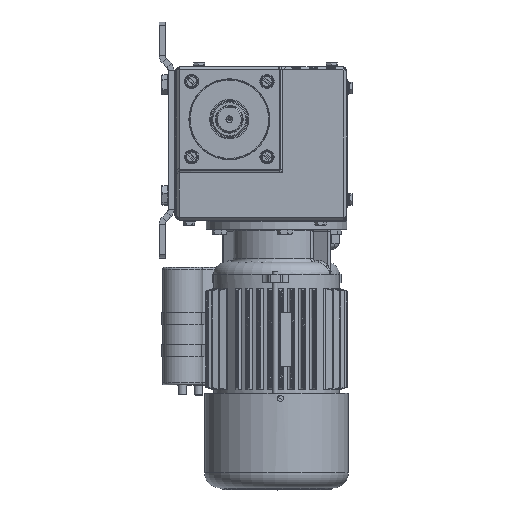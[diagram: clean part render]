
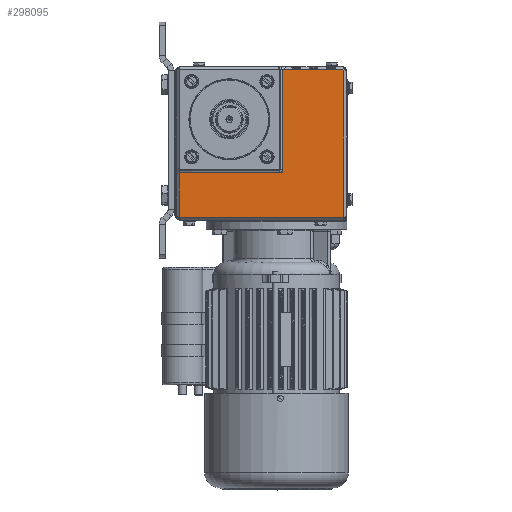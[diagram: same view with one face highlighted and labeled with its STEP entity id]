
A CAD part, top view. The second image highlights one B-rep face of the part: STEP entity #298095.
In plain terms, the highlighted planar face has unit normal (0, 0, 1).
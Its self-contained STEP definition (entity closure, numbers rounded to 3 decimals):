
#983 = ORIENTED_EDGE ( 'NONE', *, *, #204967, .T. ) ;
#4479 = CARTESIAN_POINT ( 'NONE',  ( -47.879, -97.8, 96. ) ) ;
#11360 = ORIENTED_EDGE ( 'NONE', *, *, #309649, .T. ) ;
#11689 = CARTESIAN_POINT ( 'NONE',  ( 111.879, 49.5, 96. ) ) ;
#20053 = EDGE_CURVE ( 'NONE', #171094, #276862, #204623, .T. ) ;
#20606 = ORIENTED_EDGE ( 'NONE', *, *, #284953, .T. ) ;
#24859 = AXIS2_PLACEMENT_3D ( 'NONE', #223401, #63393, #250550 ) ;
#33583 = VECTOR ( 'NONE', #43427, 1000. ) ;
#43427 = DIRECTION ( 'NONE',  ( -1., 0., 0. ) ) ;
#47598 = CARTESIAN_POINT ( 'NONE',  ( 111.879, -97.8, 96. ) ) ;
#48464 = VERTEX_POINT ( 'NONE', #219380 ) ;
#54106 =( BOUNDED_CURVE ( )  B_SPLINE_CURVE ( 3, ( #230213, #257314, #123736, #311257 ),
 .UNSPECIFIED., .F., .F. ) 
 B_SPLINE_CURVE_WITH_KNOTS ( ( 4, 4 ),
 ( 2.618, 3.665 ),
 .UNSPECIFIED. ) 
 CURVE ( )  GEOMETRIC_REPRESENTATION_ITEM ( )  RATIONAL_B_SPLINE_CURVE ( ( 1., 0.911, 0.911, 1. ) ) 
 REPRESENTATION_ITEM ( '' )  );
#55528 = VECTOR ( 'NONE', #125375, 1000. ) ;
#62212 = PLANE ( 'NONE',  #24859 ) ;
#63393 = DIRECTION ( 'NONE',  ( 0., 0., -1. ) ) ;
#64748 = CARTESIAN_POINT ( 'NONE',  ( 114., -95.679, 96. ) ) ;
#69915 =( BOUNDED_CURVE ( )  B_SPLINE_CURVE ( 3, ( #246585, #86236, #327482, #166759 ),
 .UNSPECIFIED., .F., .T. ) 
 B_SPLINE_CURVE_WITH_KNOTS ( ( 4, 4 ),
 ( 2.618, 3.665 ),
 .UNSPECIFIED. ) 
 CURVE ( )  GEOMETRIC_REPRESENTATION_ITEM ( )  RATIONAL_B_SPLINE_CURVE ( ( 1., 0.911, 0.911, 1. ) ) 
 REPRESENTATION_ITEM ( '' )  );
#71490 = VERTEX_POINT ( 'NONE', #276165 ) ;
#72198 = CARTESIAN_POINT ( 'NONE',  ( 117., -97.8, 96. ) ) ;
#76548 = EDGE_LOOP ( 'NONE', ( #118266, #20606, #271616, #271551, #983, #165949, #129431, #214214, #145101, #11360 ) ) ;
#78735 = VECTOR ( 'NONE', #258224, 1000. ) ;
#86236 = CARTESIAN_POINT ( 'NONE',  ( -50., -97.024, 96. ) ) ;
#95435 = EDGE_CURVE ( 'NONE', #276862, #104369, #108733, .T. ) ;
#97487 = CARTESIAN_POINT ( 'NONE',  ( 53.243, -52., 96. ) ) ;
#98029 = CARTESIAN_POINT ( 'NONE',  ( 114., 47.379, 96. ) ) ;
#104369 = VERTEX_POINT ( 'NONE', #119273 ) ;
#108047 = LINE ( 'NONE', #97487, #170718 ) ;
#108089 = LINE ( 'NONE', #203387, #33583 ) ;
#108306 = VERTEX_POINT ( 'NONE', #326913 ) ;
#108733 =( BOUNDED_CURVE ( )  B_SPLINE_CURVE ( 3, ( #144588, #332226, #117811, #11689 ),
 .UNSPECIFIED., .F., .F. ) 
 B_SPLINE_CURVE_WITH_KNOTS ( ( 4, 4 ),
 ( 2.618, 3.665 ),
 .UNSPECIFIED. ) 
 CURVE ( )  GEOMETRIC_REPRESENTATION_ITEM ( )  RATIONAL_B_SPLINE_CURVE ( ( 1., 0.911, 0.911, 1. ) ) 
 REPRESENTATION_ITEM ( '' )  );
#117474 = EDGE_CURVE ( 'NONE', #265930, #270865, #220954, .T. ) ;
#117811 = CARTESIAN_POINT ( 'NONE',  ( 113.224, 49.5, 96. ) ) ;
#118266 = ORIENTED_EDGE ( 'NONE', *, *, #117474, .T. ) ;
#119273 = CARTESIAN_POINT ( 'NONE',  ( 111.879, 49.5, 96. ) ) ;
#123736 = CARTESIAN_POINT ( 'NONE',  ( 114., -97.024, 96. ) ) ;
#125375 = DIRECTION ( 'NONE',  ( -1., 0., 0. ) ) ;
#126466 = LINE ( 'NONE', #286027, #55528 ) ;
#129431 = ORIENTED_EDGE ( 'NONE', *, *, #340192, .T. ) ;
#133452 = VECTOR ( 'NONE', #317439, 1000. ) ;
#144588 = CARTESIAN_POINT ( 'NONE',  ( 114., 47.379, 96. ) ) ;
#145101 = ORIENTED_EDGE ( 'NONE', *, *, #189050, .T. ) ;
#153200 = VERTEX_POINT ( 'NONE', #214178 ) ;
#157643 = CARTESIAN_POINT ( 'NONE',  ( 54.121, 49.5, 96. ) ) ;
#157961 = VERTEX_POINT ( 'NONE', #157643 ) ;
#158117 = VECTOR ( 'NONE', #240712, 1000. ) ;
#165949 = ORIENTED_EDGE ( 'NONE', *, *, #225541, .T. ) ;
#166759 = CARTESIAN_POINT ( 'NONE',  ( -47.879, -97.8, 96. ) ) ;
#170718 = VECTOR ( 'NONE', #284891, 1000. ) ;
#171094 = VERTEX_POINT ( 'NONE', #64748 ) ;
#181818 = CARTESIAN_POINT ( 'NONE',  ( 53.243, 49.645, 96. ) ) ;
#189050 = EDGE_CURVE ( 'NONE', #48464, #71490, #237928, .T. ) ;
#203387 = CARTESIAN_POINT ( 'NONE',  ( 52., 49.5, 96. ) ) ;
#204623 = LINE ( 'NONE', #236467, #133452 ) ;
#204967 = EDGE_CURVE ( 'NONE', #104369, #157961, #108089, .T. ) ;
#214178 = CARTESIAN_POINT ( 'NONE',  ( 53.243, -53.243, 96. ) ) ;
#214214 = ORIENTED_EDGE ( 'NONE', *, *, #346325, .T. ) ;
#219380 = CARTESIAN_POINT ( 'NONE',  ( -50., -53.243, 96. ) ) ;
#220954 = LINE ( 'NONE', #72198, #78735 ) ;
#223401 = CARTESIAN_POINT ( 'NONE',  ( -53., 52.5, 96. ) ) ;
#225541 = EDGE_CURVE ( 'NONE', #157961, #108306, #294832, .T. ) ;
#230213 = CARTESIAN_POINT ( 'NONE',  ( 111.879, -97.8, 96. ) ) ;
#234659 = CARTESIAN_POINT ( 'NONE',  ( 54.121, 49.5, 96. ) ) ;
#236467 = CARTESIAN_POINT ( 'NONE',  ( 114., 52.5, 96. ) ) ;
#237928 = LINE ( 'NONE', #239539, #158117 ) ;
#239539 = CARTESIAN_POINT ( 'NONE',  ( -50., 52.5, 96. ) ) ;
#240712 = DIRECTION ( 'NONE',  ( 0., -1., 0. ) ) ;
#246585 = CARTESIAN_POINT ( 'NONE',  ( -50., -95.679, 96. ) ) ;
#250550 = DIRECTION ( 'NONE',  ( -1., 0., 0. ) ) ;
#257314 = CARTESIAN_POINT ( 'NONE',  ( 113.224, -97.8, 96. ) ) ;
#258224 = DIRECTION ( 'NONE',  ( 1., 0., 0. ) ) ;
#261811 = CARTESIAN_POINT ( 'NONE',  ( 53.8, 49.5, 96. ) ) ;
#265930 = VERTEX_POINT ( 'NONE', #4479 ) ;
#270865 = VERTEX_POINT ( 'NONE', #47598 ) ;
#271551 = ORIENTED_EDGE ( 'NONE', *, *, #95435, .T. ) ;
#271616 = ORIENTED_EDGE ( 'NONE', *, *, #20053, .T. ) ;
#276165 = CARTESIAN_POINT ( 'NONE',  ( -50., -95.679, 96. ) ) ;
#276862 = VERTEX_POINT ( 'NONE', #98029 ) ;
#284891 = DIRECTION ( 'NONE',  ( 0., -1., 0. ) ) ;
#284953 = EDGE_CURVE ( 'NONE', #270865, #171094, #54106, .T. ) ;
#286027 = CARTESIAN_POINT ( 'NONE',  ( -50., -53.243, 96. ) ) ;
#294832 =( BOUNDED_CURVE ( )  B_SPLINE_CURVE ( 3, ( #234659, #261811, #342659, #181818 ),
 .UNSPECIFIED., .F., .F. ) 
 B_SPLINE_CURVE_WITH_KNOTS ( ( 4, 4 ),
 ( 5.76, 6.021 ),
 .UNSPECIFIED. ) 
 CURVE ( )  GEOMETRIC_REPRESENTATION_ITEM ( )  RATIONAL_B_SPLINE_CURVE ( ( 1., 0.994, 0.994, 1. ) ) 
 REPRESENTATION_ITEM ( '' )  );
#298095 = ADVANCED_FACE ( 'NONE', ( #299184 ), #62212, .F. ) ;
#299184 = FACE_OUTER_BOUND ( 'NONE', #76548, .T. ) ;
#309649 = EDGE_CURVE ( 'NONE', #71490, #265930, #69915, .T. ) ;
#311257 = CARTESIAN_POINT ( 'NONE',  ( 114., -95.679, 96. ) ) ;
#317439 = DIRECTION ( 'NONE',  ( 0., 1., 0. ) ) ;
#326913 = CARTESIAN_POINT ( 'NONE',  ( 53.243, 49.645, 96. ) ) ;
#327482 = CARTESIAN_POINT ( 'NONE',  ( -49.224, -97.8, 96. ) ) ;
#332226 = CARTESIAN_POINT ( 'NONE',  ( 114., 48.724, 96. ) ) ;
#340192 = EDGE_CURVE ( 'NONE', #108306, #153200, #108047, .T. ) ;
#342659 = CARTESIAN_POINT ( 'NONE',  ( 53.505, 49.548, 96. ) ) ;
#346325 = EDGE_CURVE ( 'NONE', #153200, #48464, #126466, .T. ) ;
